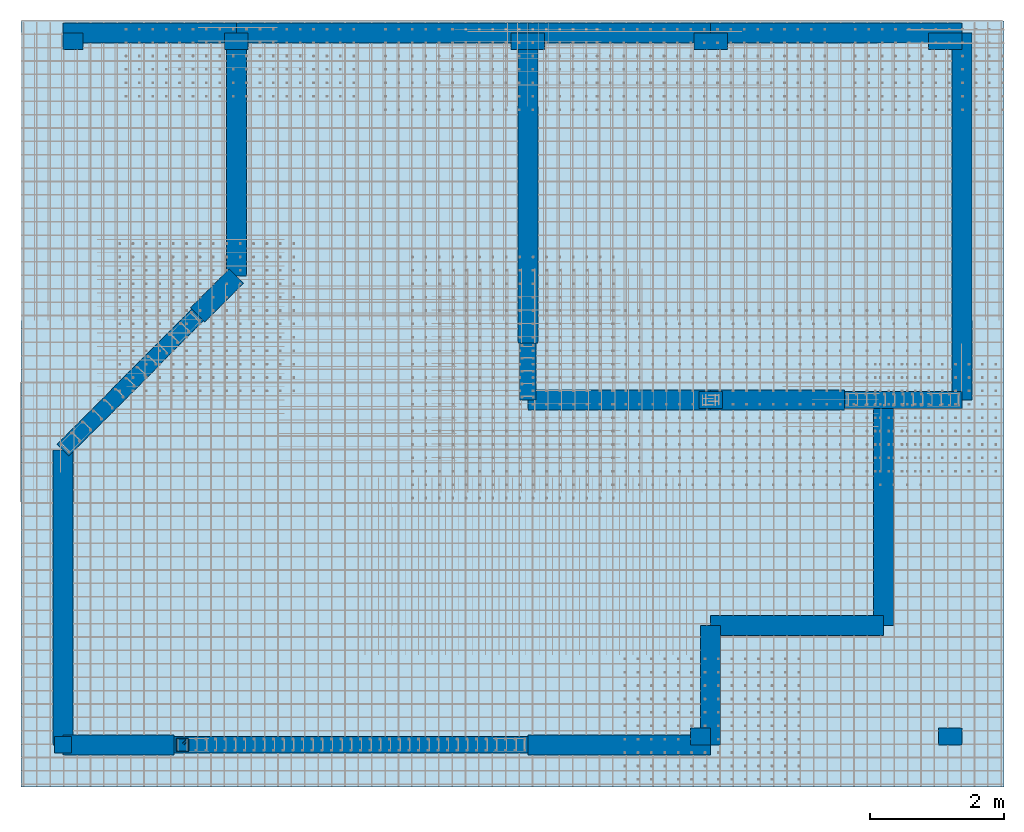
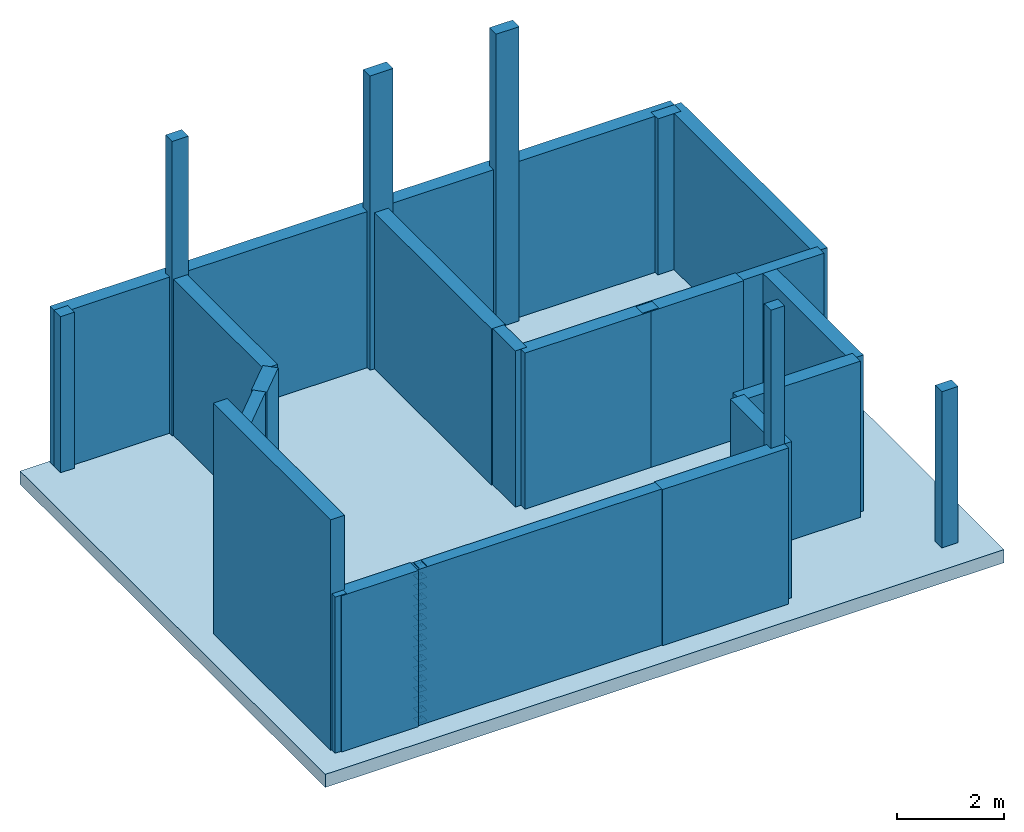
# One storey, part 1 of 8: 20 walls, 9 columns, 2 reinforcing bars, 1 footing.
"""IFC4 building model written with IfcOpenShell, lengths in metres."""

from ifc_helpers import new_model, entity, si_unit, frame, origin_with_axes, origin_2d_with_axis, place, context, project, spatial, polyline, rectangle, outline, extrude, faceted_brep, source, transform, mapped, material, layer, layer_set, layer_usage, material_profile, profile_set, profile_usage, type_object, element, save


model = new_model("IFC4")

# Units and contexts
model_context = context("Model", 3, precision=1e-05, world=origin_with_axes())
ifc_project = project(units=[si_unit("LENGTHUNIT", "METRE"), si_unit("AREAUNIT", "SQUARE_METRE"), si_unit("VOLUMEUNIT", "CUBIC_METRE"), si_unit("MASSUNIT", "GRAM", prefix="KILO"), si_unit("TIMEUNIT", "SECOND"), si_unit("PLANEANGLEUNIT", "RADIAN"), si_unit("SOLIDANGLEUNIT", "STERADIAN"), si_unit("THERMODYNAMICTEMPERATUREUNIT", "DEGREE_CELSIUS")], contexts=[model_context])

# Site, building, storey
placement_1 = place(None, origin_with_axes())
site = spatial("IfcSite", under=ifc_project, at=placement_1, Name="Italia", CompositionType="ELEMENT")
building = spatial("IfcBuilding", under=site, at=placement_1, Name="Abitazione", CompositionType="ELEMENT")
storey = spatial("IfcBuildingStorey", under=building, at=placement_1, Name="Storey 0", CompositionType="ELEMENT", Elevation=0.0)

# Footing
ifc_material_1 = material(Name="Calcestruzzo classe C25/30", Category="Calcestruzzo classe C25/30")
ifc_layer_1 = layer(ifc_material_1, 0.3)
ifc_layer_set_1 = layer_set([ifc_layer_1])
ifc_layer_usage_1 = layer_usage(ifc_layer_set_1, "AXIS3", "POSITIVE", -0.3)
footing_type = type_object("IfcFootingType", Name="1 Platea 30", PredefinedType="STRIP_FOOTING")
placement_2 = place(placement_1, origin_with_axes())
footing_placement = place(placement_2, origin_with_axes())
element("IfcFooting", 1, at=footing_placement, inside=storey, type_object=footing_type, material=ifc_layer_usage_1, context=model_context, shape_type="Brep", body=[
    faceted_brep([(0.56, 11.6, 0.0), (0.56, 11.6, -0.3), (15.24, 11.6, -0.3), (15.24, 11.6, 0.0), (15.24, 11.6, 0.0), (15.24, 11.6, -0.3), (15.24, 0.16, -0.3), (15.24, 0.16, 0.0), (15.24, 0.16, 0.0), (15.24, 0.16, -0.3), (0.56, 0.16, -0.3), (0.56, 0.16, 0.0), (0.56, 0.16, 0.0), (0.56, 0.16, -0.3), (0.56, 11.6, -0.3), (0.56, 11.6, 0.0), (0.56, 11.6, -0.3), (15.24, 11.6, -0.3), (15.24, 0.16, -0.3), (0.56, 0.16, -0.3), (0.56, 11.6, 0.0), (15.24, 11.6, 0.0), (15.24, 0.16, 0.0), (0.56, 0.16, 0.0)], [[[0, 1, 2, 3]], [[4, 5, 6, 7]], [[8, 9, 10, 11]], [[12, 13, 14, 15]], [[16, 17, 18, 19]], [[20, 21, 22, 23]]]),
])

# Columns
ifc_material_2 = material(Name="Calcestruzzo classe C25/30", Category="Calcestruzzo classe C25/30")
ifc_material_profile = material_profile(ifc_material_2, rectangle(XDim=0.25, YDim=0.3, at=origin_2d_with_axis()), Name="4 PL 25x30 principale")
ifc_profile_set = profile_set([ifc_material_profile])
column_type_1 = type_object("IfcColumnType", Name="4 PL 25x30 principale", PredefinedType="COLUMN", material=ifc_profile_set)
column_1_placement = place(placement_2, origin_with_axes())
element("IfcColumn", 2, at=column_1_placement, inside=storey, type_object=column_type_1, Name="7", context=model_context, shape_type="SweptSolid", body=[
    extrude(rectangle(XDim=0.25, YDim=0.3, at=origin_2d_with_axis()), frame((1.34, 11.295, 0.0), z_axis=(0.0, 0.0, 1.0), x_axis=(0.0, 1.0, 0.0)), (0.0, 0.0, 1.0), 3.57),
])
ifc_profile_usage_1 = profile_usage(ifc_profile_set, cardinal=9)
column_type_2 = type_object("IfcColumnType", Name="8 PL 25x50 principale", PredefinedType="COLUMN", material=ifc_profile_usage_1)
column_2_placement = place(placement_2, origin_with_axes())
element("IfcColumn", 3, at=column_2_placement, inside=storey, type_object=column_type_2, Name="11", context=model_context, shape_type="SweptSolid", body=[
    extrude(rectangle(XDim=0.25, YDim=0.5, at=origin_2d_with_axis()), frame((14.36, 11.295, 0.0), z_axis=(0.0, 0.0, 1.0), x_axis=(0.0, 1.0, 0.0)), (0.0, 0.0, 1.0), 3.57),
])
ifc_profile_usage_2 = profile_usage(ifc_profile_set, cardinal=5)
column_type_3 = type_object("IfcColumnType", Name="7 PL 25x35 principale", PredefinedType="COLUMN", material=ifc_profile_usage_2)
column_3_placement = place(placement_2, origin_with_axes())
element("IfcColumn", 4, at=column_3_placement, inside=storey, type_object=column_type_3, Name="5", context=model_context, shape_type="SweptSolid", body=[
    extrude(rectangle(XDim=0.25, YDim=0.35, at=origin_2d_with_axis()), frame((10.86, 5.94, 0.0), z_axis=(0.0, 0.0, 1.0), x_axis=(0.0, 1.0, 0.0)), (0.0, 0.0, 1.0), 3.57),
])
ifc_profile_usage_3 = profile_usage(ifc_profile_set, cardinal=5)
column_type_4 = type_object("IfcColumnType", Name="2 PL 25x25 principale", PredefinedType="COLUMN", material=ifc_profile_usage_3)
column_4_placement = place(placement_2, origin_with_axes())
element("IfcColumn", 5, at=column_4_placement, inside=storey, type_object=column_type_4, Name="1", context=model_context, shape_type="SweptSolid", body=[
    extrude(rectangle(XDim=0.25, YDim=0.25, at=origin_2d_with_axis()), frame((1.19, 0.79, 0.0), z_axis=(0.0, 0.0, 1.0), x_axis=(0.0, 1.0, 0.0)), (0.0, 0.0, 1.0), 3.57),
])
ifc_profile_usage_4 = profile_usage(ifc_profile_set, cardinal=7)
column_type_5 = type_object("IfcColumnType", Name="7 PL 25x35 principale", PredefinedType="COLUMN", material=ifc_profile_usage_4)
column_5_placement = place(placement_2, origin_with_axes())
element("IfcColumn", 6, at=column_5_placement, inside=storey, type_object=column_type_5, Name="3", context=model_context, shape_type="SweptSolid", body=[
    extrude(rectangle(XDim=0.25, YDim=0.35, at=origin_2d_with_axis()), frame((14.435, 0.915, 0.0), z_axis=(0.0, 0.0, 1.0), x_axis=(0.0, 1.0, 0.0)), (0.0, 0.0, 1.0), 3.57),
])
ifc_profile_usage_5 = profile_usage(ifc_profile_set, cardinal=7)
column_type_6 = type_object("IfcColumnType", Name="4 PL 25x30 principale", PredefinedType="COLUMN", material=ifc_profile_usage_5)
column_6_placement = place(placement_2, origin_with_axes())
element("IfcColumn", 7, at=column_6_placement, inside=storey, type_object=column_type_6, Name="2", context=model_context, shape_type="SweptSolid", body=[
    extrude(rectangle(XDim=0.25, YDim=0.3, at=origin_2d_with_axis()), frame((10.71, 0.915, 0.0), z_axis=(0.0, 0.0, 1.0), x_axis=(0.0, 1.0, 0.0)), (0.0, 0.0, 1.0), 6.73),
])
ifc_profile_usage_6 = profile_usage(ifc_profile_set, cardinal=6)
column_type_7 = type_object("IfcColumnType", Name="8 PL 25x50 principale", PredefinedType="COLUMN", material=ifc_profile_usage_6)
column_7_placement = place(placement_2, origin_with_axes())
element("IfcColumn", 8, at=column_7_placement, inside=storey, type_object=column_type_7, Name="10", context=model_context, shape_type="SweptSolid", body=[
    extrude(rectangle(XDim=0.25, YDim=0.5, at=origin_2d_with_axis()), frame((10.86, 11.295, 0.0), z_axis=(0.0, 0.0, 1.0), x_axis=(0.0, 1.0, 0.0)), (0.0, 0.0, 1.0), 6.73),
])
ifc_profile_usage_7 = profile_usage(ifc_profile_set, cardinal=6)
column_type_8 = type_object("IfcColumnType", Name="7 PL 25x35 principale", PredefinedType="COLUMN", material=ifc_profile_usage_7)
column_8_placement = place(placement_2, origin_with_axes())
element("IfcColumn", 9, at=column_8_placement, inside=storey, type_object=column_type_8, Name="8", context=model_context, shape_type="SweptSolid", body=[
    extrude(rectangle(XDim=0.25, YDim=0.35, at=origin_2d_with_axis()), frame((3.78, 11.295, 0.0), z_axis=(0.0, 0.0, 1.0), x_axis=(0.0, 1.0, 0.0)), (0.0, 0.0, 1.0), 6.73),
])
ifc_profile_usage_8 = profile_usage(ifc_profile_set, cardinal=6)
column_type_9 = type_object("IfcColumnType", Name="8 PL 25x50 principale", PredefinedType="COLUMN", material=ifc_profile_usage_8)
column_9_placement = place(placement_2, origin_with_axes())
element("IfcColumn", 10, at=column_9_placement, inside=storey, type_object=column_type_9, Name="9", context=model_context, shape_type="SweptSolid", body=[
    extrude(rectangle(XDim=0.25, YDim=0.5, at=origin_2d_with_axis()), frame((8.13, 11.295, 0.0), z_axis=(0.0, 0.0, 1.0), x_axis=(0.0, 1.0, 0.0)), (0.0, 0.0, 1.0), 6.73),
])

# Walls
ifc_material_3 = material(Name="Calcestruzzo classe C25/30", Category="Calcestruzzo classe C25/30")
ifc_layer_2 = layer(ifc_material_3, 0.25)
ifc_layer_set_2 = layer_set([ifc_layer_2])
ifc_layer_usage_2 = layer_usage(ifc_layer_set_2, "AXIS2", "POSITIVE", -0.25)
wall_type_1 = type_object("IfcWallType", Name="7 Parete 25", PredefinedType="STANDARD")
wall_1_placement = place(placement_2, origin_with_axes())
element("IfcWallStandardCase", 11, at=wall_1_placement, inside=storey, type_object=wall_type_1, material=ifc_layer_usage_2, Name="110", context=model_context, shape_type="SweptSolid", body=[
    extrude(rectangle(XDim=1.75, YDim=0.25, at=origin_2d_with_axis()), frame((13.735, 5.94, 0.0), z_axis=(0.0, 0.0, 1.0), x_axis=(1.0, 0.0, 0.0)), (0.0, 0.0, 1.0), 3.57),
])
ifc_material_4 = material(Name="Calcestruzzo classe C25/30", Category="Calcestruzzo classe C25/30")
ifc_layer_3 = layer(ifc_material_4, 0.25)
ifc_layer_set_3 = layer_set([ifc_layer_3])
ifc_layer_usage_3 = layer_usage(ifc_layer_set_3, "AXIS2", "POSITIVE", -0.25)
wall_type_2 = type_object("IfcWallType", Name="7 Parete 25", PredefinedType="STANDARD")
wall_2_placement = place(placement_2, origin_with_axes())
element("IfcWallStandardCase", 12, at=wall_2_placement, inside=storey, type_object=wall_type_2, material=ifc_layer_usage_3, Name="109", context=model_context, shape_type="SweptSolid", body=[
    extrude(rectangle(XDim=0.85, YDim=0.25, at=origin_2d_with_axis()), frame((8.13, 6.365, 0.0), z_axis=(0.0, 0.0, 1.0), x_axis=(0.0, 1.0, 0.0)), (0.0, 0.0, 1.0), 3.57),
])
ifc_material_5 = material(Name="Calcestruzzo classe C25/30", Category="Calcestruzzo classe C25/30")
ifc_layer_4 = layer(ifc_material_5, 0.25)
ifc_layer_set_4 = layer_set([ifc_layer_4])
ifc_layer_usage_4 = layer_usage(ifc_layer_set_4, "AXIS2", "POSITIVE", -0.25)
wall_type_3 = type_object("IfcWallType", Name="7 Parete 25", PredefinedType="STANDARD")
wall_3_placement = place(placement_2, origin_with_axes())
element("IfcWallStandardCase", 13, at=wall_3_placement, inside=storey, type_object=wall_type_3, material=ifc_layer_usage_4, Name="108", context=model_context, shape_type="SweptSolid", body=[
    extrude(rectangle(XDim=5.28, YDim=0.25, at=origin_2d_with_axis()), frame((5.49, 0.79, 0.0), z_axis=(0.0, 0.0, 1.0), x_axis=(1.0, 0.0, 0.0)), (0.0, 0.0, 1.0), 3.57),
])
ifc_material_6 = material(Name="Calcestruzzo classe C25/30", Category="Calcestruzzo classe C25/30")
ifc_layer_5 = layer(ifc_material_6, 0.25)
ifc_layer_set_5 = layer_set([ifc_layer_5])
ifc_layer_usage_5 = layer_usage(ifc_layer_set_5, "AXIS2", "POSITIVE", -0.25)
wall_type_4 = type_object("IfcWallType", Name="7 Parete 25", PredefinedType="STANDARD")
wall_4_placement = place(placement_2, origin_with_axes())
element("IfcWallStandardCase", 14, at=wall_4_placement, inside=storey, type_object=wall_type_4, material=ifc_layer_usage_5, Name="107", context=model_context, shape_type="SweptSolid", body=[
    extrude(rectangle(XDim=2.84965, YDim=0.25, at=origin_2d_with_axis()), frame((2.195, 6.2, 0.0), z_axis=(0.0, 0.0, 1.0), x_axis=(0.705349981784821, 0.708859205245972, 0.0)), (0.0, 0.0, 1.0), 3.57),
])
ifc_material_7 = material(Name="TAMP 366", Category="TAMP 366")
wall_5_placement = place(placement_2, origin_with_axes())
element("IfcWall", 15, at=wall_5_placement, inside=storey, material=ifc_material_7, Name="212", context=model_context, shape_type="SweptSolid", body=[
    extrude(outline(polyline([(0.0, 0.0), (0.0, 0.396667), (0.0, 0.793333), (0.0, 1.19), (0.0, 1.58667), (0.0, 1.98333), (0.0, 2.38), (0.0, 2.77667), (0.0, 3.17333), (0.0, 3.54453), (0.0, 3.91574), (0.0, 4.28695), (0.0, 4.65815), (0.0, 4.87363), (-0.22, 4.87363), (-0.6, 4.87363), (-0.98, 4.87363), (-1.36, 4.87363), (-1.74, 4.87363), (-2.12, 4.87363), (-2.5, 4.87363), (-2.88, 4.87363), (-3.26, 4.87363), (-3.64, 4.87363), (-4.02, 4.87363), (-4.4, 4.87363), (-4.4, 3.17333), (-4.4, -0.396667), (-4.05167, -0.396667), (-3.70333, -0.396667), (-3.355, -0.396667), (-3.00667, -0.396667), (-2.65833, -0.396667), (-2.31, -0.396667), (-1.96167, -0.396667), (-1.61333, -0.396667), (-1.265, -0.396667), (-0.916667, -0.396667), (-0.568334, -0.396667), (-0.22, -0.396667), (0.0, -0.396667), (0.0, 0.0)])), frame((1.04, 5.19, 0.396667), z_axis=(1.0, 0.0, 0.0), x_axis=(0.0, 1.0, 0.0)), (0.0, 0.0, 1.0), 0.3),
])
ifc_material_8 = material(Name="TAMP 366", Category="TAMP 366")
wall_6_placement = place(placement_2, origin_with_axes())
element("IfcWall", 16, at=wall_6_placement, inside=storey, material=ifc_material_8, Name="101", context=model_context, shape_type="SweptSolid", body=[
    extrude(outline(polyline([(0.0, 0.0), (0.332, 0.0), (0.664, 0.0), (0.996, 0.0), (1.328, 0.0), (1.66, 0.0), (1.66, 0.396667), (1.66, 0.793333), (1.66, 1.19), (1.66, 1.58667), (1.66, 1.98333), (1.66, 2.38), (1.66, 2.77667), (1.66, 3.17333), (1.66, 3.57), (0.0, 3.57), (0.0, 0.0)])), frame((1.19, 0.94, 0.0), z_axis=(0.0, -1.0, 0.0), x_axis=(1.0, 0.0, 0.0)), (0.0, 0.0, 1.0), 0.3),
])
ifc_material_9 = material(Name="TAMP 366", Category="TAMP 366")
wall_7_placement = place(placement_2, origin_with_axes())
element("IfcWall", 17, at=wall_7_placement, inside=storey, material=ifc_material_9, Name="102", context=model_context, shape_type="SweptSolid", body=[
    extrude(outline(polyline([(0.0, 0.0), (0.39, 0.0), (0.78, 0.0), (1.17, 0.0), (1.56, 0.0), (1.95, 0.0), (2.34, 0.0), (2.73, 0.0), (2.73, 3.57), (2.34, 3.57), (1.95, 3.57), (1.56, 3.57), (1.17, 3.57), (0.78, 3.57), (0.39, 3.57), (0.0, 3.57), (0.0, 3.17333), (0.0, 2.77667), (0.0, 2.38), (0.0, 1.98333), (0.0, 1.58667), (0.0, 1.19), (0.0, 0.793333), (0.0, 0.396667), (0.0, 0.0)])), frame((8.13, 0.94, 0.0), z_axis=(0.0, -1.0, 0.0), x_axis=(1.0, 0.0, 0.0)), (0.0, 0.0, 1.0), 0.3),
])
ifc_material_10 = material(Name="TAMP 366", Category="TAMP 366")
wall_8_placement = place(placement_2, origin_with_axes())
element("IfcWall", 18, at=wall_8_placement, inside=storey, material=ifc_material_10, Name="118", context=model_context, shape_type="SweptSolid", body=[
    extrude(outline(polyline([(0.0, 0.0), (0.4, 0.0), (0.8, 0.0), (1.2, 0.0), (1.6, 0.0), (2.0, 0.0), (2.4, 0.0), (2.72333, 0.0), (3.04667, 0.0), (3.37, 0.0), (3.37, 0.44625), (3.37, 0.8925), (3.37, 1.33875), (3.37, 1.785), (3.37, 2.23125), (3.37, 2.6775), (3.37, 3.12375), (3.37, 3.57), (3.045, 3.57), (2.72, 3.57), (2.395, 3.57), (2.07, 3.57), (1.685, 3.57), (1.3, 3.57), (0.915, 3.57), (0.53, 3.57), (0.0, 3.57), (0.0, 0.0)])), frame((13.29, 2.57, 0.0), z_axis=(1.0, 0.0, 0.0), x_axis=(0.0, 1.0, 0.0)), (0.0, 0.0, 1.0), 0.299999),
])
ifc_material_11 = material(Name="TAMP 366", Category="TAMP 366")
wall_9_placement = place(placement_2, origin_with_axes())
element("IfcWall", 19, at=wall_9_placement, inside=storey, material=ifc_material_11, Name="104", context=model_context, shape_type="SweptSolid", body=[
    extrude(outline(polyline([(0.0, 0.0), (0.368571, 0.0), (0.737143, 0.0), (1.10571, 0.0), (1.6, 0.0), (2.0, 0.0), (2.35, 0.0), (2.58, 0.0), (2.58, 3.57), (2.35091, 3.57), (2.0, 3.57), (1.60438, 3.57), (1.20605, 3.57), (0.8, 3.57), (0.4, 3.57), (0.0, 3.57), (0.0, 0.0)])), frame((10.86, 2.72, 0.0), z_axis=(0.0, -1.0, 0.0), x_axis=(1.0, 0.0, 0.0)), (0.0, 0.0, 1.0), 0.3),
])
ifc_material_12 = material(Name="TAMP 366", Category="TAMP 366")
wall_10_placement = place(placement_2, origin_with_axes())
element("IfcWall", 20, at=wall_10_placement, inside=storey, material=ifc_material_12, Name="119", context=model_context, shape_type="SweptSolid", body=[
    extrude(outline(polyline([(0.0, 0.0), (0.3175, 0.0), (0.635, 0.0), (0.9525, 0.0), (1.27, 0.0), (1.56, 0.0), (1.85, 0.0), (2.213, 0.0), (2.576, 0.0), (2.939, 0.0), (3.302, 0.0), (3.665, 0.0), (4.028, 0.0), (4.391, 0.0), (4.754, 0.0), (5.117, 0.0), (5.48, 0.0), (5.48, 3.57), (5.09727, 3.57), (4.71455, 3.57), (4.33182, 3.57), (3.94909, 3.57), (3.56636, 3.57), (3.18364, 3.57), (2.80091, 3.57), (2.41818, 3.57), (2.03545, 3.57), (1.65273, 3.57), (1.27, 3.57), (0.9525, 3.57), (0.635, 3.57), (0.3175, 3.57), (0.0, 3.57), (0.0, 3.12375), (0.0, 2.6775), (0.0, 2.23125), (0.0, 1.785), (0.0, 1.33875), (0.0, 0.8925), (0.0, 0.44625), (0.0, 0.0)])), frame((14.46, 5.94, 0.0), z_axis=(1.0, 0.0, 0.0), x_axis=(0.0, 1.0, 0.0)), (0.0, 0.0, 1.0), 0.299999),
])
ifc_material_13 = material(Name="TAMP 366", Category="TAMP 366")
wall_11_placement = place(placement_2, origin_with_axes())
element("IfcWall", 21, at=wall_11_placement, inside=storey, material=ifc_material_13, Name="111", context=model_context, shape_type="SweptSolid", body=[
    extrude(outline(polyline([(0.0, 0.0), (0.375, 0.0), (0.75, 0.0), (1.125, 0.0), (1.4, 0.0), (1.75, 0.0), (2.15, 0.0), (2.625, 0.0), (3.0, 0.0), (3.375, 0.0), (3.75, 0.0), (3.75, 3.57), (3.35, 3.57), (2.95, 3.57), (2.55, 3.57), (2.15, 3.57), (1.75, 3.57), (1.4, 3.57), (1.17, 3.57), (0.7, 3.57), (0.35, 3.57), (0.0, 3.57), (0.0, 0.0)])), frame((14.61, 11.27, 0.0), z_axis=(0.0, 1.0, 0.0), x_axis=(-1.0, 0.0, 0.0)), (0.0, 0.0, 1.0), 0.299999),
])
ifc_material_14 = material(Name="TAMP 366", Category="TAMP 366")
wall_12_placement = place(placement_2, origin_with_axes())
element("IfcWall", 22, at=wall_12_placement, inside=storey, material=ifc_material_14, Name="109", context=model_context, shape_type="SweptSolid", body=[
    extrude(outline(polyline([(0.0, 0.0), (0.39, 0.0), (0.78, 0.0), (1.17, 0.0), (1.56, 0.0), (1.95, 0.0), (2.34, 0.0), (2.73, 0.0), (2.73, 3.57), (2.34, 3.57), (1.95, 3.57), (1.56, 3.57), (1.17, 3.57), (0.78, 3.57), (0.39, 3.57), (0.0, 3.57), (0.0, 0.0)])), frame((10.86, 11.27, 0.0), z_axis=(0.0, 1.0, 0.0), x_axis=(-1.0, 0.0, 0.0)), (0.0, 0.0, 1.0), 0.299999),
])
ifc_material_15 = material(Name="TAMP 366", Category="TAMP 366")
wall_13_placement = place(placement_2, origin_with_axes())
element("IfcWall", 23, at=wall_13_placement, inside=storey, material=ifc_material_15, Name="108", context=model_context, shape_type="SweptSolid", body=[
    extrude(outline(polyline([(0.0, 0.0), (0.395454, 0.0), (0.790909, 0.0), (1.18636, 0.0), (1.58182, 0.0), (1.97727, 0.0), (2.37273, 0.0), (2.76818, 0.0), (3.16364, 0.0), (3.55909, 0.0), (3.95455, 0.0), (4.35, 0.0), (4.35, 3.57), (3.95455, 3.57), (3.55909, 3.57), (3.16364, 3.57), (2.76818, 3.57), (2.37273, 3.57), (1.97727, 3.57), (1.58182, 3.57), (1.18636, 3.57), (0.790909, 3.57), (0.395454, 3.57), (0.0, 3.57), (0.0, 0.0)])), frame((8.13, 11.27, 0.0), z_axis=(0.0, 1.0, 0.0), x_axis=(-1.0, 0.0, 0.0)), (0.0, 0.0, 1.0), 0.299999),
])
ifc_material_16 = material(Name="TAMP 366", Category="TAMP 366")
wall_14_placement = place(placement_2, origin_with_axes())
element("IfcWall", 24, at=wall_14_placement, inside=storey, material=ifc_material_16, Name="107", context=model_context, shape_type="SweptSolid", body=[
    extrude(outline(polyline([(0.0, 0.0), (0.37, 0.0), (0.74, 0.0), (1.11, 0.0), (1.48, 0.0), (1.85, 0.0), (2.22, 0.0), (2.59, 0.0), (2.59, 3.57), (2.255, 3.57), (1.92, 3.57), (1.585, 3.57), (1.25, 3.57), (0.915, 3.57), (0.58, 3.57), (0.386667, 3.57), (0.193333, 3.57), (0.0, 3.57), (0.0, 0.0)])), frame((3.78, 11.27, 0.0), z_axis=(0.0, 1.0, 0.0), x_axis=(-1.0, 0.0, 0.0)), (0.0, 0.0, 1.0), 0.299999),
])
ifc_material_17 = material(Name="TAMP 366", Category="TAMP 366")
wall_15_placement = place(placement_2, origin_with_axes())
element("IfcWall", 25, at=wall_15_placement, inside=storey, material=ifc_material_17, Name="113", context=model_context, shape_type="SweptSolid", body=[
    extrude(outline(polyline([(0.0, 0.0), (0.363, 0.0), (0.726, 0.0), (1.089, 0.0), (1.452, 0.0), (1.815, 0.0), (2.178, 0.0), (2.541, 0.0), (2.904, 0.0), (3.267, 0.0), (3.63, 0.0), (3.63, 3.57), (3.267, 3.57), (2.904, 3.57), (2.541, 3.57), (2.178, 3.57), (1.815, 3.57), (1.452, 3.57), (1.089, 3.57), (0.726, 3.57), (0.363, 3.57), (0.0, 3.57), (0.0, 0.0)])), frame((3.93, 11.42, 0.0), z_axis=(-1.0, 0.0, 0.0), x_axis=(0.0, -1.0, 0.0)), (0.0, 0.0, 1.0), 0.3),
])
ifc_material_18 = material(Name="TAMP 366", Category="TAMP 366")
wall_16_placement = place(placement_2, origin_with_axes())
element("IfcWall", 26, at=wall_16_placement, inside=storey, material=ifc_material_18, Name="112", context=model_context, shape_type="SweptSolid", body=[
    extrude(outline(polyline([(0.0, 0.0), (0.273416, 0.0), (0.54683, 0.0), (0.820244, 0.0), (0.820244, 0.396667), (0.820244, 0.793333), (0.820244, 1.19), (0.820244, 1.58667), (0.820244, 1.98333), (0.820244, 2.38), (0.820244, 2.77666), (0.820244, 3.17333), (0.820244, 3.57), (0.54683, 3.57), (0.273416, 3.57), (0.0, 3.57), (0.0, 0.0)])), frame((3.88607, 7.68393, 0.0), z_axis=(-0.707105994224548, 0.707107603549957, 1.45249345e-07), x_axis=(-0.707107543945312, -0.707105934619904, 0.0)), (0.0, 0.0, 1.0), 0.3),
])
ifc_material_19 = material(Name="TAMP 366", Category="TAMP 366")
wall_17_placement = place(placement_2, origin_with_axes())
element("IfcWall", 27, at=wall_17_placement, inside=storey, material=ifc_material_19, Name="115", context=model_context, shape_type="SweptSolid", body=[
    extrude(outline(polyline([(0.0, 0.0), (0.356, 0.0), (0.712, 0.0), (1.068, 0.0), (1.424, 0.0), (1.78, 0.0), (1.78, 3.57), (1.58462, 3.57), (1.18846, 3.57), (0.792308, 3.57), (0.396154, 3.57), (0.0, 3.57), (0.0, 0.0)])), frame((10.71, 0.79, 0.0), z_axis=(1.0, 0.0, 0.0), x_axis=(0.0, 1.0, 0.0)), (0.0, 0.0, 1.0), 0.299999),
])
ifc_material_20 = material(Name="TAMP 240", Category="TAMP 240")
wall_18_placement = place(placement_2, origin_with_axes())
element("IfcWall", 28, at=wall_18_placement, inside=storey, material=ifc_material_20, Name="105", context=model_context, shape_type="SweptSolid", body=[
    extrude(outline(polyline([(0.0, 0.0), (0.39, 0.0), (0.78, 0.0), (1.17, 0.0), (1.56, 0.0), (1.95, 0.0), (2.34, 0.0), (2.73, 0.0), (2.73, 0.396667), (2.73, 0.793333), (2.73, 1.19), (2.73, 1.58667), (2.73, 1.98333), (2.73, 2.38), (2.73, 2.77667), (2.73, 3.17333), (2.73, 3.57), (2.34, 3.57), (1.95, 3.57), (1.56, 3.57), (1.17, 3.57), (0.78, 3.57), (0.39, 3.57), (0.0, 3.57), (0.0, 0.0)])), frame((10.86, 5.79, 0.0), z_axis=(0.0, 1.0, 0.0), x_axis=(-1.0, 0.0, 0.0)), (0.0, 0.0, 1.0), 0.3),
])
ifc_material_21 = material(Name="TAMP 240", Category="TAMP 240")
wall_19_placement = place(placement_2, origin_with_axes())
element("IfcWall", 29, at=wall_19_placement, inside=storey, material=ifc_material_21, Name="114", context=model_context, shape_type="SweptSolid", body=[
    extrude(outline(polyline([(0.0, 0.0), (0.135, 0.0), (0.42, 0.0), (0.71, 0.0), (1.0, 0.0), (1.363, 0.0), (1.726, 0.0), (2.089, 0.0), (2.452, 0.0), (2.815, 0.0), (3.178, 0.0), (3.541, 0.0), (3.904, 0.0), (4.267, 0.0), (4.63, 0.0), (4.63, 3.57), (4.24727, 3.57), (3.86455, 3.57), (3.48182, 3.57), (3.09909, 3.57), (2.71636, 3.57), (2.33364, 3.57), (1.95091, 3.57), (1.56818, 3.57), (1.0, 3.57), (0.802727, 3.57), (0.42, 3.57), (0.135, 3.57), (0.0, 3.57), (0.0, 3.17333), (0.0, 2.77667), (0.0, 2.38), (0.0, 1.98333), (0.0, 1.58667), (0.0, 1.19), (0.0, 0.793333), (0.0, 0.396667), (0.0, 0.0)])), frame((7.98, 6.79, 0.0), z_axis=(1.0, 0.0, 0.0), x_axis=(0.0, 1.0, 0.0)), (0.0, 0.0, 1.0), 0.3),
])
ifc_material_22 = material(Name="TAMP 240", Category="TAMP 240")
wall_20_placement = place(placement_2, origin_with_axes())
element("IfcWall", 30, at=wall_20_placement, inside=storey, material=ifc_material_22, Name="106", context=model_context, shape_type="SweptSolid", body=[
    extrude(outline(polyline([(0.0, 0.0), (-0.4, 0.0), (-0.8, 0.0), (-1.2, 0.0), (-1.6, 0.0), (-2.0, 0.0), (-2.0, -0.446), (-2.0, -0.892), (-2.0, -1.339), (-2.0, -1.785), (-2.0, -2.231), (-2.0, -2.678), (-2.0, -3.124), (-2.0, -3.57), (-1.6, -3.57), (-1.10571, -3.57), (-0.737143, -3.57), (-0.368571, -3.57), (0.0, -3.57), (0.0, 0.0)])), frame((10.86, 5.79, 3.57), z_axis=(0.0, 1.0, 0.0), x_axis=(-1.0, 0.0, 0.0)), (0.0, 0.0, 1.0), 0.3),
])

# Reinforcing bars
shared_shape_1 = source(origin_with_axes(), model_context, "Body", "AdvancedSweptSolid", [
    entity("IfcSweptDiskSolid", entity("IfcIndexedPolyCurve", entity("IfcCartesianPointList3D", [[3.057, 0.872, 0.0], [3.057, 0.872, 3.57], [3.057, 0.704, 3.57]]), [entity("IfcLineIndex", [1, 2]), entity("IfcLineIndex", [2, 3])], False), 0.008),
])
reinforcing_bar_1_placement = place(placement_2, origin_with_axes())
element("IfcReinforcingBar", 31, at=reinforcing_bar_1_placement, inside=storey, BarLength=3.738, CrossSectionArea=0.00020106, NominalDiameter=0.016, context=model_context, shape_type="MappedRepresentation", body=[
    mapped(shared_shape_1, transform((6.114, 1.58, 0.0), x_axis=(-1.0, 0.0, 0.0), y_axis=(0.0, -1.0, 0.0), z_axis=(0.0, 0.0, 1.0), scale=1.0)),
    mapped(shared_shape_1, transform((0.0, 0.0, 0.0), x_axis=(1.0, 0.0, 0.0), y_axis=(0.0, 1.0, 0.0), z_axis=(0.0, 0.0, 1.0), scale=1.0)),
    mapped(shared_shape_1, transform((5.95, 1.58, 0.0), x_axis=(-1.0, 0.0, 0.0), y_axis=(0.0, -1.0, 0.0), z_axis=(0.0, 0.0, 1.0), scale=1.0)),
    mapped(shared_shape_1, transform((-0.163999, 0.0, 0.0), x_axis=(1.0, 0.0, 0.0), y_axis=(0.0, 1.0, 0.0), z_axis=(0.0, 0.0, 1.0), scale=1.0)),
])
shared_shape_2 = source(origin_with_axes(), model_context, "Body", "AdvancedSweptSolid", [
    entity("IfcSweptDiskSolid", entity("IfcIndexedPolyCurve", entity("IfcCartesianPointList3D", [[2.97679, 0.814289, 0.03], [3.04457, 0.882071, 0.03], [3.05164, 0.885, 0.03], [3.06, 0.885, 0.03], [3.06383, 0.884239, 0.03], [3.06707, 0.882071, 0.03], [3.06924, 0.878827, 0.03], [3.07, 0.875, 0.03], [3.07, 0.705, 0.03], [3.06924, 0.701173, 0.03], [3.06707, 0.697929, 0.03], [3.06383, 0.695761, 0.03], [3.06, 0.695, 0.03], [2.89, 0.695, 0.03], [2.88617, 0.695761, 0.03], [2.88293, 0.697929, 0.03], [2.88076, 0.701173, 0.03], [2.88, 0.705, 0.03], [2.88, 0.875, 0.03], [2.88076, 0.878827, 0.03], [2.88293, 0.882071, 0.03], [2.88617, 0.884239, 0.03], [2.89, 0.885, 0.03], [3.06, 0.885, 0.03], [3.06383, 0.884239, 0.03], [3.06707, 0.882071, 0.03], [3.06924, 0.878827, 0.03], [3.07, 0.875, 0.03], [3.07, 0.866642, 0.03], [3.06707, 0.859571, 0.03], [2.99929, 0.791789, 0.03]]), [entity("IfcLineIndex", [1, 2]), entity("IfcLineIndex", [2, 3]), entity("IfcLineIndex", [3, 4]), entity("IfcLineIndex", [4, 5]), entity("IfcLineIndex", [5, 6]), entity("IfcLineIndex", [6, 7]), entity("IfcLineIndex", [7, 8]), entity("IfcLineIndex", [8, 9]), entity("IfcLineIndex", [9, 10]), entity("IfcLineIndex", [10, 11]), entity("IfcLineIndex", [11, 12]), entity("IfcLineIndex", [12, 13]), entity("IfcLineIndex", [13, 14]), entity("IfcLineIndex", [14, 15]), entity("IfcLineIndex", [15, 16]), entity("IfcLineIndex", [16, 17]), entity("IfcLineIndex", [17, 18]), entity("IfcLineIndex", [18, 19]), entity("IfcLineIndex", [19, 20]), entity("IfcLineIndex", [20, 21]), entity("IfcLineIndex", [21, 22]), entity("IfcLineIndex", [22, 23]), entity("IfcLineIndex", [23, 24]), entity("IfcLineIndex", [24, 25]), entity("IfcLineIndex", [25, 26]), entity("IfcLineIndex", [26, 27]), entity("IfcLineIndex", [27, 28]), entity("IfcLineIndex", [28, 29]), entity("IfcLineIndex", [29, 30]), entity("IfcLineIndex", [30, 31])], False), 0.005),
])
reinforcing_bar_2_placement = place(placement_2, origin_with_axes())
element("IfcReinforcingBar", 32, at=reinforcing_bar_2_placement, inside=storey, BarLength=0.981776, CrossSectionArea=7.854e-05, NominalDiameter=0.01, context=model_context, shape_type="MappedRepresentation", body=[
    mapped(shared_shape_2, transform((0.0, 0.0, 1.17), x_axis=(1.0, 0.0, 0.0), y_axis=(0.0, 1.0, 0.0), z_axis=(0.0, 0.0, 1.0), scale=1.0)),
    mapped(shared_shape_2, transform((0.0, 0.0, 0.936), x_axis=(1.0, 0.0, 0.0), y_axis=(0.0, 1.0, 0.0), z_axis=(0.0, 0.0, 1.0), scale=1.0)),
    mapped(shared_shape_2, transform((0.0, 0.0, 1.638), x_axis=(1.0, 0.0, 0.0), y_axis=(0.0, 1.0, 0.0), z_axis=(0.0, 0.0, 1.0), scale=1.0)),
    mapped(shared_shape_2, transform((0.0, 0.0, 1.404), x_axis=(1.0, 0.0, 0.0), y_axis=(0.0, 1.0, 0.0), z_axis=(0.0, 0.0, 1.0), scale=1.0)),
    mapped(shared_shape_2, transform((0.0, 0.0, 0.234), x_axis=(1.0, 0.0, 0.0), y_axis=(0.0, 1.0, 0.0), z_axis=(0.0, 0.0, 1.0), scale=1.0)),
    mapped(shared_shape_2, transform((0.0, 0.0, 0.0), x_axis=(1.0, 0.0, 0.0), y_axis=(0.0, 1.0, 0.0), z_axis=(0.0, 0.0, 1.0), scale=1.0)),
    mapped(shared_shape_2, transform((0.0, 0.0, 0.702), x_axis=(1.0, 0.0, 0.0), y_axis=(0.0, 1.0, 0.0), z_axis=(0.0, 0.0, 1.0), scale=1.0)),
    mapped(shared_shape_2, transform((0.0, 0.0, 0.468), x_axis=(1.0, 0.0, 0.0), y_axis=(0.0, 1.0, 0.0), z_axis=(0.0, 0.0, 1.0), scale=1.0)),
    mapped(shared_shape_2, transform((0.0, 0.0, 3.042), x_axis=(1.0, 0.0, 0.0), y_axis=(0.0, 1.0, 0.0), z_axis=(0.0, 0.0, 1.0), scale=1.0)),
    mapped(shared_shape_2, transform((0.0, 0.0, 2.808), x_axis=(1.0, 0.0, 0.0), y_axis=(0.0, 1.0, 0.0), z_axis=(0.0, 0.0, 1.0), scale=1.0)),
    mapped(shared_shape_2, transform((0.0, 0.0, 3.51), x_axis=(1.0, 0.0, 0.0), y_axis=(0.0, 1.0, 0.0), z_axis=(0.0, 0.0, 1.0), scale=1.0)),
    mapped(shared_shape_2, transform((0.0, 0.0, 3.276), x_axis=(1.0, 0.0, 0.0), y_axis=(0.0, 1.0, 0.0), z_axis=(0.0, 0.0, 1.0), scale=1.0)),
    mapped(shared_shape_2, transform((0.0, 0.0, 2.106), x_axis=(1.0, 0.0, 0.0), y_axis=(0.0, 1.0, 0.0), z_axis=(0.0, 0.0, 1.0), scale=1.0)),
    mapped(shared_shape_2, transform((0.0, 0.0, 1.872), x_axis=(1.0, 0.0, 0.0), y_axis=(0.0, 1.0, 0.0), z_axis=(0.0, 0.0, 1.0), scale=1.0)),
    mapped(shared_shape_2, transform((0.0, 0.0, 2.574), x_axis=(1.0, 0.0, 0.0), y_axis=(0.0, 1.0, 0.0), z_axis=(0.0, 0.0, 1.0), scale=1.0)),
    mapped(shared_shape_2, transform((0.0, 0.0, 2.34), x_axis=(1.0, 0.0, 0.0), y_axis=(0.0, 1.0, 0.0), z_axis=(0.0, 0.0, 1.0), scale=1.0)),
])

save(model, "model.ifc")
